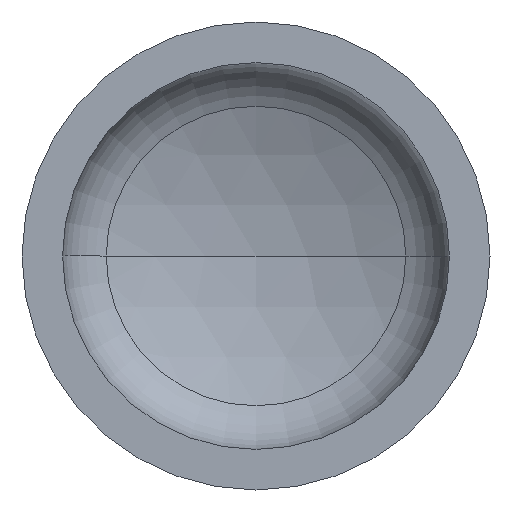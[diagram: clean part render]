
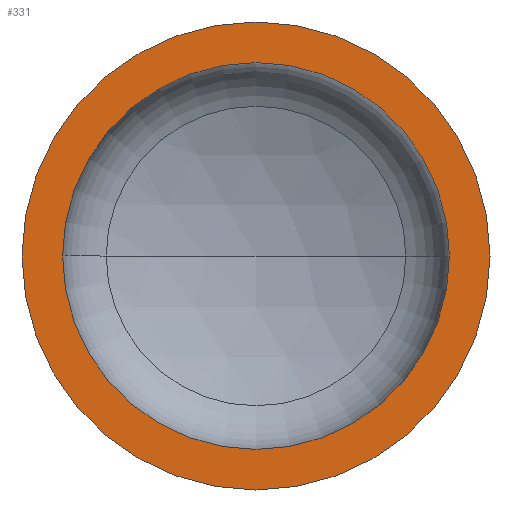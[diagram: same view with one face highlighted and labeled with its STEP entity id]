
A CAD part, front view. The second image highlights one B-rep face of the part: STEP entity #331.
In plain terms, the highlighted planar face has unit normal (0, -1, 0).
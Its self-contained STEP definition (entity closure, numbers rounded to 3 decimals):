
#6 = AXIS2_PLACEMENT_3D ( 'NONE', #196, #197, #367 ) ;
#8 = EDGE_LOOP ( 'NONE', ( #91, #53 ) ) ;
#23 = AXIS2_PLACEMENT_3D ( 'NONE', #380, #54, #243 ) ;
#25 = AXIS2_PLACEMENT_3D ( 'NONE', #290, #399, #267 ) ;
#27 = ORIENTED_EDGE ( 'NONE', *, *, #352, .F. ) ;
#30 = CARTESIAN_POINT ( 'NONE',  ( -372., 0., 0. ) ) ;
#51 = EDGE_LOOP ( 'NONE', ( #104, #27 ) ) ;
#53 = ORIENTED_EDGE ( 'NONE', *, *, #127, .T. ) ;
#54 = DIRECTION ( 'NONE',  ( 0., -1., 0. ) ) ;
#60 = PLANE ( 'NONE',  #25 ) ;
#69 = VERTEX_POINT ( 'NONE', #265 ) ;
#91 = ORIENTED_EDGE ( 'NONE', *, *, #374, .T. ) ;
#92 = AXIS2_PLACEMENT_3D ( 'NONE', #313, #312, #306 ) ;
#97 = VERTEX_POINT ( 'NONE', #362 ) ;
#101 = AXIS2_PLACEMENT_3D ( 'NONE', #372, #311, #309 ) ;
#104 = ORIENTED_EDGE ( 'NONE', *, *, #132, .F. ) ;
#117 = VERTEX_POINT ( 'NONE', #228 ) ;
#127 = EDGE_CURVE ( 'NONE', #69, #117, #344, .T. ) ;
#132 = EDGE_CURVE ( 'NONE', #97, #232, #156, .T. ) ;
#156 = CIRCLE ( 'NONE', #92, 372. ) ;
#177 = CIRCLE ( 'NONE', #23, 372. ) ;
#196 = CARTESIAN_POINT ( 'NONE',  ( 0., 0., 0. ) ) ;
#197 = DIRECTION ( 'NONE',  ( 0., -1., 0. ) ) ;
#228 = CARTESIAN_POINT ( 'NONE',  ( 450., 0., 0. ) ) ;
#232 = VERTEX_POINT ( 'NONE', #30 ) ;
#243 = DIRECTION ( 'NONE',  ( 1., 0., 0. ) ) ;
#265 = CARTESIAN_POINT ( 'NONE',  ( -450., 0., 0. ) ) ;
#267 = DIRECTION ( 'NONE',  ( -1., 0., 0. ) ) ;
#284 = CIRCLE ( 'NONE', #6, 450. ) ;
#290 = CARTESIAN_POINT ( 'NONE',  ( -450., 0., 0. ) ) ;
#301 = FACE_BOUND ( 'NONE', #51, .T. ) ;
#306 = DIRECTION ( 'NONE',  ( 1., 0., 0. ) ) ;
#307 = FACE_OUTER_BOUND ( 'NONE', #8, .T. ) ;
#309 = DIRECTION ( 'NONE',  ( 1., 0., 0. ) ) ;
#311 = DIRECTION ( 'NONE',  ( 0., -1., 0. ) ) ;
#312 = DIRECTION ( 'NONE',  ( 0., -1., 0. ) ) ;
#313 = CARTESIAN_POINT ( 'NONE',  ( 0., 0., 0. ) ) ;
#331 = ADVANCED_FACE ( 'NONE', ( #301, #307 ), #60, .F. ) ;
#344 = CIRCLE ( 'NONE', #101, 450. ) ;
#352 = EDGE_CURVE ( 'NONE', #232, #97, #177, .T. ) ;
#362 = CARTESIAN_POINT ( 'NONE',  ( 372., 0., 0. ) ) ;
#367 = DIRECTION ( 'NONE',  ( 1., 0., 0. ) ) ;
#372 = CARTESIAN_POINT ( 'NONE',  ( 0., 0., 0. ) ) ;
#374 = EDGE_CURVE ( 'NONE', #117, #69, #284, .T. ) ;
#380 = CARTESIAN_POINT ( 'NONE',  ( 0., 0., 0. ) ) ;
#399 = DIRECTION ( 'NONE',  ( 0., 1., 0. ) ) ;
